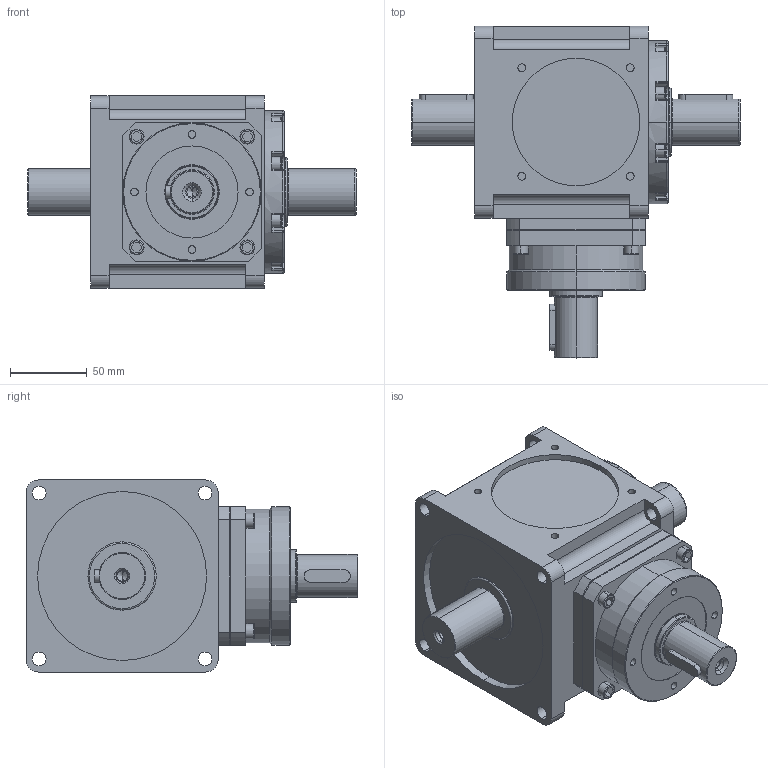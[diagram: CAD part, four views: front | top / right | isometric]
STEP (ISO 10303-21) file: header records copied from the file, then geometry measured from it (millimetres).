
FILE_DESCRIPTION (( 'STEP AP214' ), '1' );
FILE_NAME ('CCT125A-002-2P.STEP', '2025-06-03T03:15:27', ( '微软用户' ), ( '微软中国' ), 'SwSTEP 2.0', 'SolidWorks 2024', '' );
FILE_SCHEMA (( 'AUTOMOTIVE_DESIGN' ));
Length unit declared in the file: millimetre
Products named in the file (3): CCT125A-002-2P; CCW125A输入组件; CCW125A-002-2P箱体
Assembly tree (2 placements, depth 2):
  CCT125A-002-2P
    CCW125A-002-2P箱体
    CCW125A输入组件
Bounding box: 214 x 216 x 125 mm (x, y, z)
Volume: 2085706.3 mm3; surface area: 153151.9 mm2
Topology: 4 solids, 4 shells, 491 faces, 1148 edges, 706 vertices
Faces by surface type: plane 202, cylinder 190, torus 63, cone 20, sphere 16
Entity records: 14108 total; most frequent: DIRECTION 2640, CARTESIAN_POINT 2418, ORIENTED_EDGE 2252, EDGE_CURVE 1126, AXIS2_PLACEMENT_3D 1028, VERTEX_POINT 706, LINE 584, VECTOR 584
